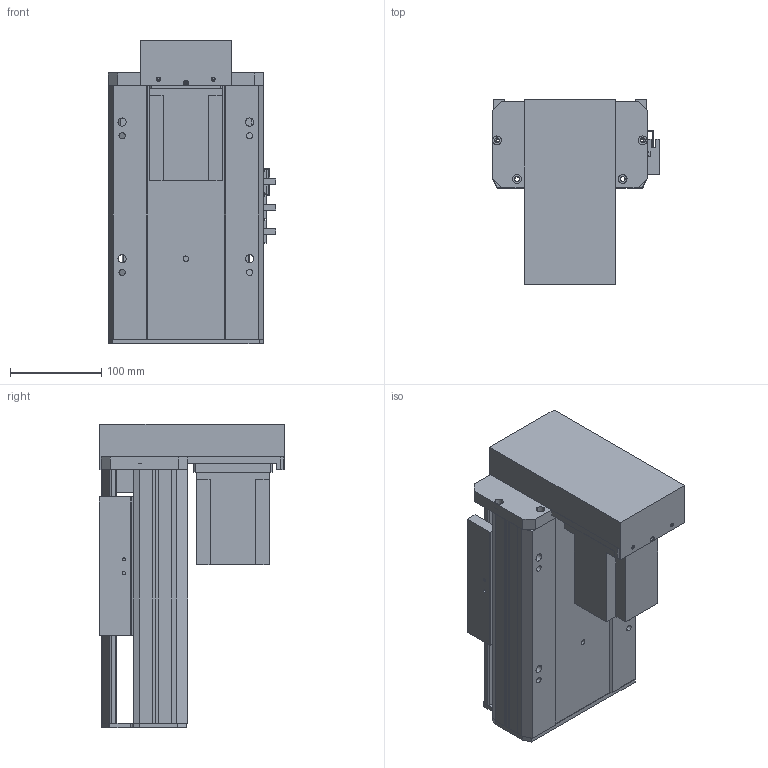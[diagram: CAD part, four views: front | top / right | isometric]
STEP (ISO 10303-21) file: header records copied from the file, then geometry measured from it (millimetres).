
FILE_DESCRIPTION (( 'STEP AP203' ), '1' );
FILE_NAME ('Y170-D10-S50-BM-P750W.STEP', '2020-01-22T02:42:08', ( '微软用户' ), ( '微软中国' ), 'SwSTEP 2.0', 'SolidWorks 2017', '' );
FILE_SCHEMA (( 'CONFIG_CONTROL_DESIGN' ));
Length unit declared in the file: millimetre
Products named in the file (13): 170-BM耜蚾蟀諉啣; Y170-BM--P750W楊擘啣; Y170耜裔--準---; -BM俋袗; 170--掛极-BR; YD-Y100-135-新外置传感挡片(通用）; 侂狟750W; Y100-135俋离換覜ん; EGH20賑輸_蕼偞; Y170-D10-S50-BM-P750W; Y雄赽釱-耜蚾; Y170-陔遴奻裔-BR; Y170-耜蚾嘐隅傷-25
Assembly tree (15 placements, depth 2):
  Y170-D10-S50-BM-P750W
    Y170耜裔--準---
    170--掛极-BR
    侂狟750W
    EGH20賑輸_蕼偞  x2
    Y雄赽釱-耜蚾
    Y170-陔遴奻裔-BR
    Y170-耜蚾嘐隅傷-25
    170-BM耜蚾蟀諉啣
    Y170-BM--P750W楊擘啣
    -BM俋袗
    YD-Y100-135-新外置传感挡片(通用）
    Y100-135俋离換覜ん  x3
Bounding box: 183.5 x 203.5 x 333.5 mm (x, y, z)
Volume: 2637356.6 mm3; surface area: 784174.8 mm2
Topology: 15 solids, 15 shells, 930 faces, 2544 edges, 1678 vertices
Faces by surface type: plane 478, cylinder 436, cone 16
Entity records: 28715 total; most frequent: CARTESIAN_POINT 4836, DIRECTION 4810, ORIENTED_EDGE 4584, EDGE_CURVE 2292, AXIS2_PLACEMENT_3D 1688, VERTEX_POINT 1522, VECTOR 1434, LINE 1434
